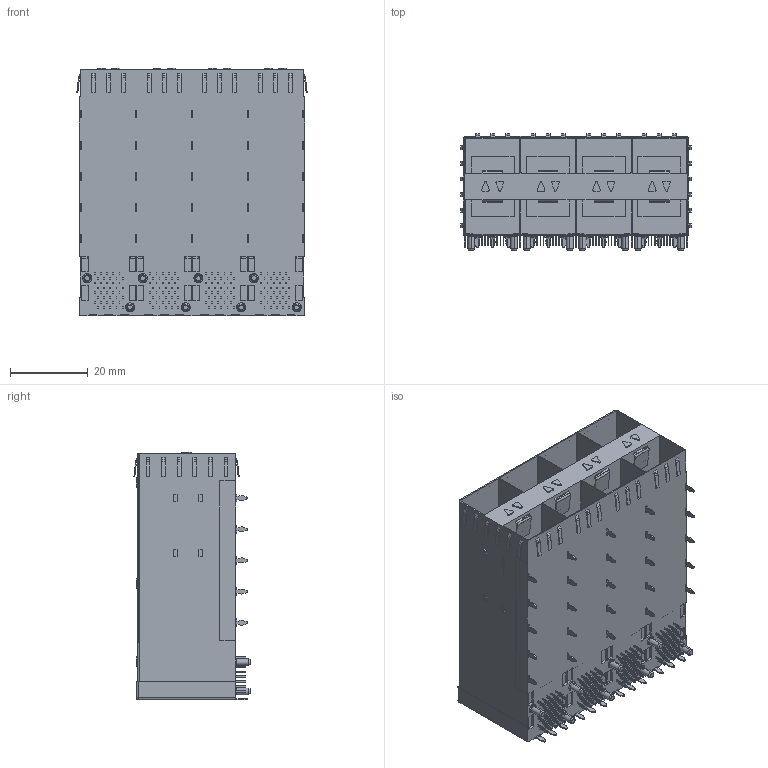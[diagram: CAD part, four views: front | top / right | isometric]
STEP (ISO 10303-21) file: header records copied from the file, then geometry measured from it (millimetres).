
FILE_DESCRIPTION (( 'STEP AP214' ), '1' );
FILE_NAME ('SFP 2X4 无月牙 内灯(上下).STEP', '2025-06-12T01:22:53', ( '桑三博客' ), ( 'Www.SangSan.Cn' ), 'SwSTEP 2.0', 'SolidWorks 2018', '' );
FILE_SCHEMA (( 'AUTOMOTIVE_DESIGN' ));
Length unit declared in the file: millimetre
Products named in the file (1): SFP 2X4 拸堎挴 囀腑(奻狟)
Bounding box: 59.05 x 29.8 x 63.5 mm (x, y, z)
Volume: 46732.2 mm3; surface area: 33684.9 mm2
Topology: 1 solids, 1 shells, 2398 faces, 6366 edges, 4230 vertices
Faces by surface type: plane 1782, cylinder 582, cone 32, sphere 2
Entity records: 74018 total; most frequent: CARTESIAN_POINT 12993, ORIENTED_EDGE 12728, DIRECTION 12358, EDGE_CURVE 6364, VECTOR 5168, LINE 5168, VERTEX_POINT 4230, AXIS2_PLACEMENT_3D 3595
